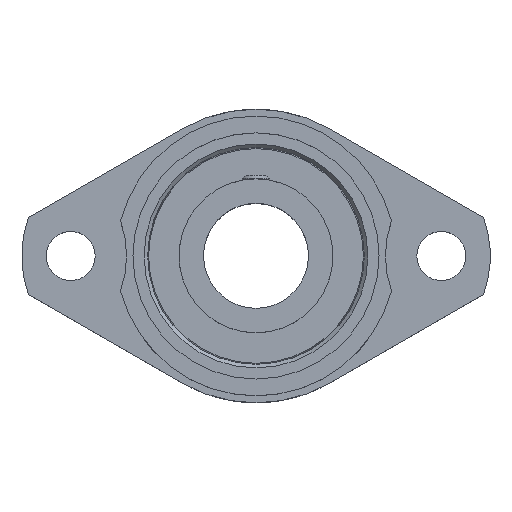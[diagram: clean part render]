
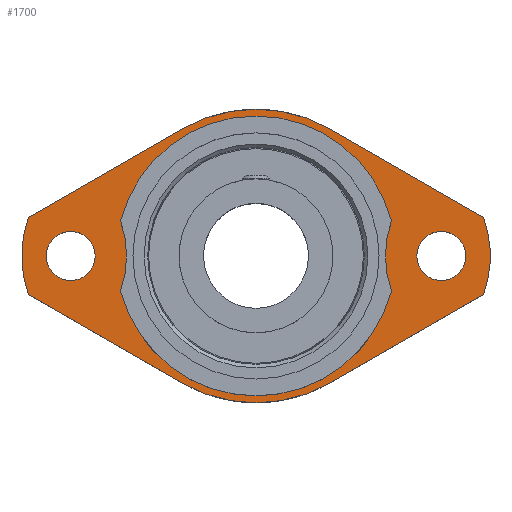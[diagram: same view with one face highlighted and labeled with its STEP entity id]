
A CAD part, top view. The second image highlights one B-rep face of the part: STEP entity #1700.
In plain terms, the highlighted planar face has unit normal (0, 0, 1).
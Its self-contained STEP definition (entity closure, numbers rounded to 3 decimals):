
#672=CARTESIAN_POINT('',(23.,0.,0.));
#673=VERTEX_POINT('',#672);
#674=CARTESIAN_POINT('',(26.5,0.,0.0));
#675=DIRECTION('',(0.0,0.0,-1.0));
#676=DIRECTION('',(1.0,0.0,0.0));
#677=AXIS2_PLACEMENT_3D('',#674,#675,#676);
#678=CIRCLE('',#677,3.5);
#679=EDGE_CURVE('',#673,#673,#678,.T.);
#692=CARTESIAN_POINT('',(-30.,0.,0.));
#693=VERTEX_POINT('',#692);
#694=CARTESIAN_POINT('',(-26.5,0.0,0.0));
#695=DIRECTION('',(0.0,0.0,-1.0));
#696=DIRECTION('',(1.0,0.0,0.0));
#697=AXIS2_PLACEMENT_3D('',#694,#695,#696);
#698=CIRCLE('',#697,3.5);
#699=EDGE_CURVE('',#693,#693,#698,.T.);
#1338=CARTESIAN_POINT('',(-19.362,-5.012,0.0));
#1339=VERTEX_POINT('',#1338);
#1346=CARTESIAN_POINT('',(19.362,-5.012,0.0));
#1347=VERTEX_POINT('',#1346);
#1348=CARTESIAN_POINT('',(0.0,0.0,0.0));
#1349=DIRECTION('',(0.0,0.0,-1.0));
#1350=DIRECTION('',(0.968,0.251,0.0));
#1351=AXIS2_PLACEMENT_3D('',#1348,#1349,#1350);
#1352=CIRCLE('',#1351,20.0);
#1353=EDGE_CURVE('',#1347,#1339,#1352,.T.);
#1378=CARTESIAN_POINT('',(-19.362,5.012,0.0));
#1379=VERTEX_POINT('',#1378);
#1386=CARTESIAN_POINT('',(-33.5,0.0,0.0));
#1387=DIRECTION('',(0.0,0.0,1.0));
#1388=DIRECTION('',(0.943,-0.334,0.0));
#1389=AXIS2_PLACEMENT_3D('',#1386,#1387,#1388);
#1390=CIRCLE('',#1389,15.);
#1391=EDGE_CURVE('',#1339,#1379,#1390,.T.);
#1411=CARTESIAN_POINT('',(19.362,5.012,0.0));
#1412=VERTEX_POINT('',#1411);
#1419=CARTESIAN_POINT('',(0.0,0.0,0.0));
#1420=DIRECTION('',(0.0,0.0,-1.0));
#1421=DIRECTION('',(-0.968,-0.251,0.0));
#1422=AXIS2_PLACEMENT_3D('',#1419,#1420,#1421);
#1423=CIRCLE('',#1422,20.0);
#1424=EDGE_CURVE('',#1379,#1412,#1423,.T.);
#1443=CARTESIAN_POINT('',(33.5,0.,0.0));
#1444=DIRECTION('',(0.0,0.0,1.0));
#1445=DIRECTION('',(-0.943,0.334,0.0));
#1446=AXIS2_PLACEMENT_3D('',#1443,#1444,#1445);
#1447=CIRCLE('',#1446,15.);
#1448=EDGE_CURVE('',#1412,#1347,#1447,.T.);
#1474=CARTESIAN_POINT('',(32.525,-5.5,0.0));
#1475=VERTEX_POINT('',#1474);
#1476=CARTESIAN_POINT('',(10.482,-18.197,0.0));
#1477=VERTEX_POINT('',#1476);
#1478=CARTESIAN_POINT('',(32.525,-5.5,0.0));
#1479=DIRECTION('',(-0.867,-0.499,0.0));
#1480=VECTOR('',#1479,25.439);
#1481=LINE('',#1478,#1480);
#1482=EDGE_CURVE('',#1475,#1477,#1481,.T.);
#1508=CARTESIAN_POINT('',(-10.482,-18.197,0.0));
#1509=VERTEX_POINT('',#1508);
#1510=CARTESIAN_POINT('',(0.0,0.0,0.0));
#1511=DIRECTION('',(0.0,0.0,-1.0));
#1512=DIRECTION('',(0.499,0.867,0.0));
#1513=AXIS2_PLACEMENT_3D('',#1510,#1511,#1512);
#1514=CIRCLE('',#1513,21.0);
#1515=EDGE_CURVE('',#1477,#1509,#1514,.T.);
#1534=CARTESIAN_POINT('',(-32.525,-5.5,0.0));
#1535=VERTEX_POINT('',#1534);
#1536=CARTESIAN_POINT('',(-10.482,-18.197,0.0));
#1537=DIRECTION('',(-0.867,0.499,0.0));
#1538=VECTOR('',#1537,25.439);
#1539=LINE('',#1536,#1538);
#1540=EDGE_CURVE('',#1509,#1535,#1539,.T.);
#1558=CARTESIAN_POINT('',(-32.525,5.5,0.0));
#1559=VERTEX_POINT('',#1558);
#1560=CARTESIAN_POINT('',(-17.5,0.0,0.0));
#1561=DIRECTION('',(0.0,0.0,-1.0));
#1562=DIRECTION('',(0.939,-0.344,0.0));
#1563=AXIS2_PLACEMENT_3D('',#1560,#1561,#1562);
#1564=CIRCLE('',#1563,16.0);
#1565=EDGE_CURVE('',#1535,#1559,#1564,.T.);
#1583=CARTESIAN_POINT('',(-10.482,18.197,0.0));
#1584=VERTEX_POINT('',#1583);
#1585=CARTESIAN_POINT('',(-32.525,5.5,0.0));
#1586=DIRECTION('',(0.867,0.499,0.0));
#1587=VECTOR('',#1586,25.439);
#1588=LINE('',#1585,#1587);
#1589=EDGE_CURVE('',#1559,#1584,#1588,.T.);
#1610=CARTESIAN_POINT('',(10.482,18.197,0.0));
#1611=VERTEX_POINT('',#1610);
#1612=CARTESIAN_POINT('',(0.0,0.0,0.0));
#1613=DIRECTION('',(0.0,0.0,-1.0));
#1614=DIRECTION('',(-0.499,-0.867,0.0));
#1615=AXIS2_PLACEMENT_3D('',#1612,#1613,#1614);
#1616=CIRCLE('',#1615,21.);
#1617=EDGE_CURVE('',#1584,#1611,#1616,.T.);
#1636=CARTESIAN_POINT('',(32.525,5.5,0.0));
#1637=VERTEX_POINT('',#1636);
#1638=CARTESIAN_POINT('',(10.482,18.197,0.0));
#1639=DIRECTION('',(0.867,-0.499,0.0));
#1640=VECTOR('',#1639,25.439);
#1641=LINE('',#1638,#1640);
#1642=EDGE_CURVE('',#1611,#1637,#1641,.T.);
#1660=CARTESIAN_POINT('',(17.5,0.0,0.0));
#1661=DIRECTION('',(0.0,0.0,-1.0));
#1662=DIRECTION('',(-0.939,0.344,0.0));
#1663=AXIS2_PLACEMENT_3D('',#1660,#1661,#1662);
#1664=CIRCLE('',#1663,16.);
#1665=EDGE_CURVE('',#1637,#1475,#1664,.T.);
#1673=CARTESIAN_POINT('',(0.,0.,0.0));
#1674=DIRECTION('',(0.0,0.0,1.0));
#1675=DIRECTION('',(1.0,0.0,0.0));
#1676=AXIS2_PLACEMENT_3D('',#1673,#1674,#1675);
#1677=PLANE('',#1676);
#1678=ORIENTED_EDGE('',*,*,#1482,.F.);
#1679=ORIENTED_EDGE('',*,*,#1665,.F.);
#1680=ORIENTED_EDGE('',*,*,#1642,.F.);
#1681=ORIENTED_EDGE('',*,*,#1617,.F.);
#1682=ORIENTED_EDGE('',*,*,#1589,.F.);
#1683=ORIENTED_EDGE('',*,*,#1565,.F.);
#1684=ORIENTED_EDGE('',*,*,#1540,.F.);
#1685=ORIENTED_EDGE('',*,*,#1515,.F.);
#1686=EDGE_LOOP('',(#1678,#1679,#1680,#1681,#1682,#1683,#1684,#1685));
#1687=FACE_OUTER_BOUND('',#1686,.T.);
#1688=ORIENTED_EDGE('',*,*,#679,.T.);
#1689=EDGE_LOOP('',(#1688));
#1690=FACE_BOUND('',#1689,.T.);
#1691=ORIENTED_EDGE('',*,*,#699,.T.);
#1692=EDGE_LOOP('',(#1691));
#1693=FACE_BOUND('',#1692,.T.);
#1694=ORIENTED_EDGE('',*,*,#1353,.T.);
#1695=ORIENTED_EDGE('',*,*,#1391,.T.);
#1696=ORIENTED_EDGE('',*,*,#1424,.T.);
#1697=ORIENTED_EDGE('',*,*,#1448,.T.);
#1698=EDGE_LOOP('',(#1694,#1695,#1696,#1697));
#1699=FACE_BOUND('',#1698,.T.);
#1700=ADVANCED_FACE('',(#1687,#1690,#1693,#1699),#1677,.T.);
